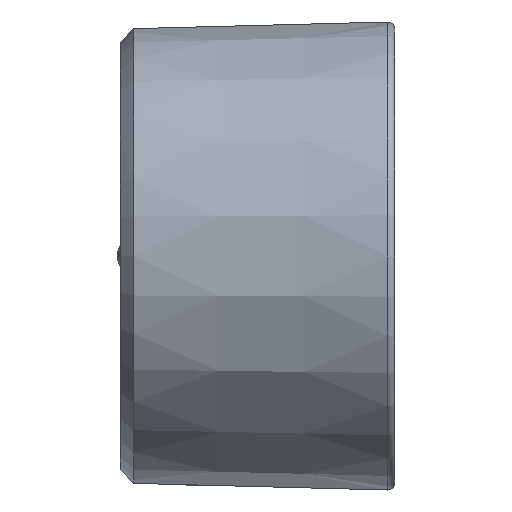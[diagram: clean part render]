
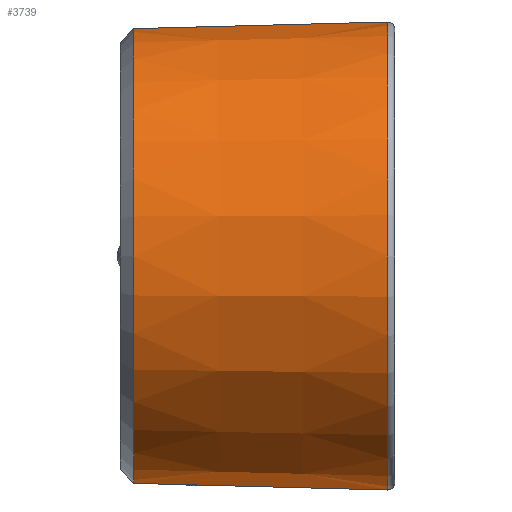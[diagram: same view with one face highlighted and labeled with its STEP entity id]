
A CAD part, left-side view. The second image highlights one B-rep face of the part: STEP entity #3739.
In plain terms, the highlighted conical face has half-angle 1.5 degrees and reference radius 17.251 mm.
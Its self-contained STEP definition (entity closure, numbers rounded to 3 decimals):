
#15=CONICAL_SURFACE('',#4056,17.251,1.5);
#321=CIRCLE('',#4042,17.5);
#328=CIRCLE('',#4054,17.002);
#576=FACE_OUTER_BOUND('',#832,.T.);
#832=EDGE_LOOP('',(#2853,#2854,#2855,#2856));
#1091=LINE('',#7674,#1305);
#1105=LINE('',#7952,#1319);
#1305=VECTOR('',#4680,1.);
#1319=VECTOR('',#4764,1.);
#1729=VERTEX_POINT('',#7671);
#1730=VERTEX_POINT('',#7673);
#1738=VERTEX_POINT('',#7728);
#1743=VERTEX_POINT('',#7947);
#2119=EDGE_CURVE('',#1730,#1729,#1091,.T.);
#2142=EDGE_CURVE('',#1729,#1738,#321,.T.);
#2157=EDGE_CURVE('',#1730,#1743,#328,.T.);
#2159=EDGE_CURVE('',#1743,#1738,#1105,.T.);
#2853=ORIENTED_EDGE('',*,*,#2142,.T.);
#2854=ORIENTED_EDGE('',*,*,#2159,.F.);
#2855=ORIENTED_EDGE('',*,*,#2157,.F.);
#2856=ORIENTED_EDGE('',*,*,#2119,.T.);
#3739=ADVANCED_FACE('',(#576),#15,.T.);
#4042=AXIS2_PLACEMENT_3D('',#7730,#4730,#4731);
#4054=AXIS2_PLACEMENT_3D('',#7948,#4757,#4758);
#4056=AXIS2_PLACEMENT_3D('',#7951,#4762,#4763);
#4680=DIRECTION('',(0.,-1.,-0.026));
#4730=DIRECTION('center_axis',(0.,1.,0.));
#4731=DIRECTION('ref_axis',(0.,0.,-1.));
#4757=DIRECTION('center_axis',(0.,1.,0.));
#4758=DIRECTION('ref_axis',(0.,0.,-1.));
#4762=DIRECTION('center_axis',(0.,-1.,0.));
#4763=DIRECTION('ref_axis',(0.,0.,1.));
#4764=DIRECTION('',(0.,-1.,0.026));
#7671=CARTESIAN_POINT('',(-12.5,0.013,32.5));
#7673=CARTESIAN_POINT('',(-12.5,19.,32.998));
#7674=CARTESIAN_POINT('',(-12.5,19.,32.998));
#7728=CARTESIAN_POINT('',(-12.5,0.013,67.5));
#7730=CARTESIAN_POINT('Origin',(-12.5,0.013,50.));
#7947=CARTESIAN_POINT('',(-12.5,19.,67.002));
#7948=CARTESIAN_POINT('Origin',(-12.5,19.,50.));
#7951=CARTESIAN_POINT('Origin',(-12.5,9.5,50.));
#7952=CARTESIAN_POINT('',(-12.5,19.,67.002));
